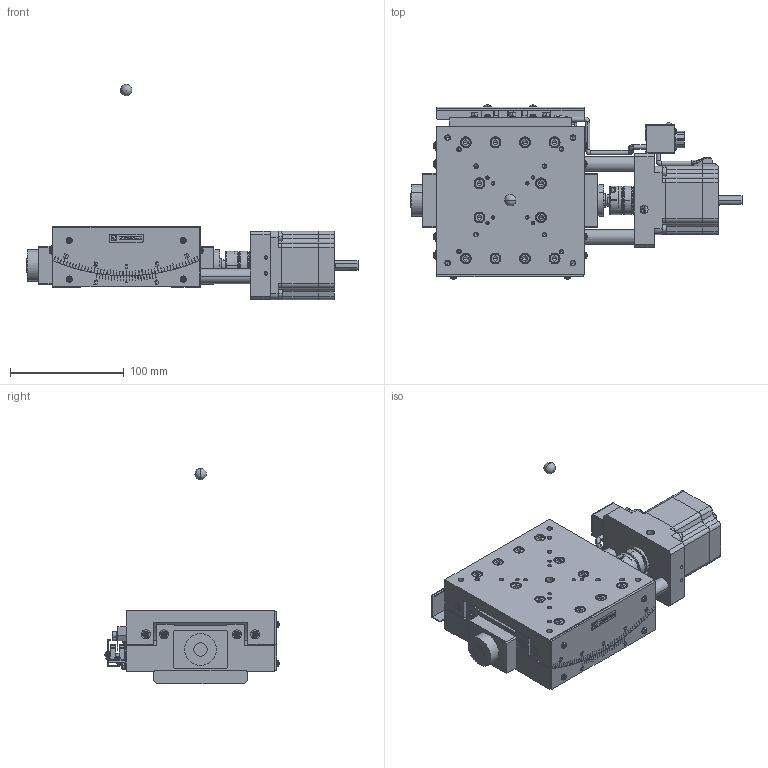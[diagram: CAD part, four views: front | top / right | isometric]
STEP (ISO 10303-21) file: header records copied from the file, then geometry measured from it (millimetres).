
FILE_DESCRIPTION (( 'STEP AP203' ), '1' );
FILE_NAME ('SA13A-RT01.STEP', '2019-02-25T04:21:13', ( '' ), ( '' ), 'SwSTEP 2.0', 'SolidWorks 2018', '' );
FILE_SCHEMA (( 'CONFIG_CONTROL_DESIGN' ));
Length unit declared in the file: millimetre
Products named in the file (4): table; base; SA13A-RT01; rotation center
Assembly tree (3 placements, depth 2):
  SA13A-RT01
    base
    table
    rotation center
Bounding box: 291.5 x 152.87 x 189 mm (x, y, z)
Volume: 1215163.2 mm3; surface area: 195222.5 mm2
Topology: 3 solids, 3 shells, 2928 faces, 7431 edges, 4631 vertices
Faces by surface type: plane 1813, cylinder 695, cone 312, torus 62, sphere 42, bspline 4
Entity records: 90154 total; most frequent: CARTESIAN_POINT 18089, DIRECTION 15344, ORIENTED_EDGE 14640, EDGE_CURVE 7320, AXIS2_PLACEMENT_3D 5255, VECTOR 4834, LINE 4834, VERTEX_POINT 4628
